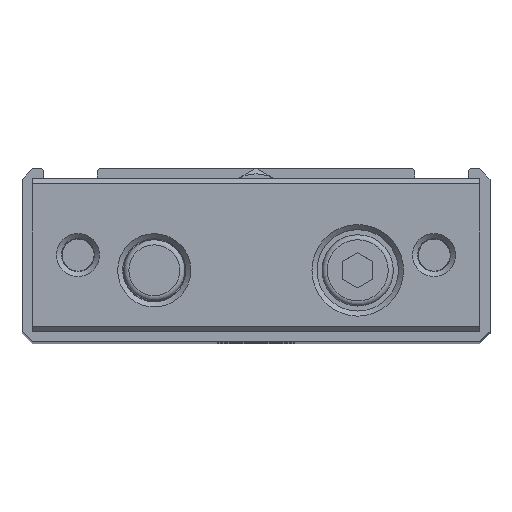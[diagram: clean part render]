
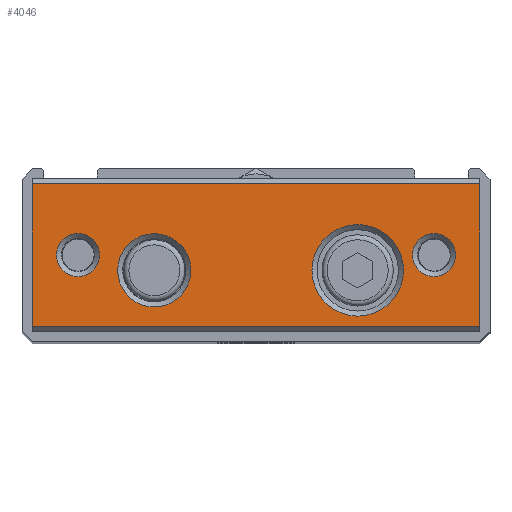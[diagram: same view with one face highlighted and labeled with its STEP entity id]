
A CAD part, top view. The second image highlights one B-rep face of the part: STEP entity #4046.
In plain terms, the highlighted planar face has unit normal (0, 0, 1).
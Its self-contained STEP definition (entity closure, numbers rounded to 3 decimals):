
#3142=CARTESIAN_POINT('',(22.0,7.0,119.));
#3143=VERTEX_POINT('',#3142);
#3151=CARTESIAN_POINT('',(-22.0,7.0,119.));
#3152=VERTEX_POINT('',#3151);
#3159=CARTESIAN_POINT('',(-22.0,7.0,119.));
#3160=DIRECTION('',(1.0,0.0,0.0));
#3161=VECTOR('',#3160,44.0);
#3162=LINE('',#3159,#3161);
#3163=EDGE_CURVE('',#3152,#3143,#3162,.T.);
#3239=CARTESIAN_POINT('',(-22.0,-7.0,119.));
#3240=VERTEX_POINT('',#3239);
#3247=CARTESIAN_POINT('',(-22.0,7.0,119.));
#3248=DIRECTION('',(0.0,-1.0,0.0));
#3249=VECTOR('',#3248,14.0);
#3250=LINE('',#3247,#3249);
#3251=EDGE_CURVE('',#3152,#3240,#3250,.T.);
#3403=CARTESIAN_POINT('',(22.0,-7.0,119.));
#3404=VERTEX_POINT('',#3403);
#3405=CARTESIAN_POINT('',(22.0,-7.0,119.));
#3406=DIRECTION('',(0.0,1.0,0.0));
#3407=VECTOR('',#3406,14.0);
#3408=LINE('',#3405,#3407);
#3409=EDGE_CURVE('',#3404,#3143,#3408,.T.);
#3982=CARTESIAN_POINT('',(14.5,-1.5,119.));
#3983=VERTEX_POINT('',#3982);
#3984=CARTESIAN_POINT('',(10.0,-1.5,119.));
#3985=DIRECTION('',(0.0,0.0,1.0));
#3986=DIRECTION('',(-1.0,0.0,0.0));
#3987=AXIS2_PLACEMENT_3D('',#3984,#3985,#3986);
#3988=CIRCLE('',#3987,4.5);
#3989=EDGE_CURVE('',#3983,#3983,#3988,.T.);
#3994=CARTESIAN_POINT('',(0.0,-7.5,119.));
#3995=DIRECTION('',(0.0,0.0,1.0));
#3996=DIRECTION('',(1.0,0.0,0.0));
#3997=AXIS2_PLACEMENT_3D('',#3994,#3995,#3996);
#3998=PLANE('',#3997);
#3999=ORIENTED_EDGE('',*,*,#3163,.F.);
#4000=ORIENTED_EDGE('',*,*,#3251,.T.);
#4001=CARTESIAN_POINT('',(22.0,-7.0,119.));
#4002=DIRECTION('',(-1.0,0.0,0.0));
#4003=VECTOR('',#4002,44.0);
#4004=LINE('',#4001,#4003);
#4005=EDGE_CURVE('',#3404,#3240,#4004,.T.);
#4006=ORIENTED_EDGE('',*,*,#4005,.F.);
#4007=ORIENTED_EDGE('',*,*,#3409,.T.);
#4008=EDGE_LOOP('',(#3999,#4000,#4006,#4007));
#4009=FACE_OUTER_BOUND('',#4008,.T.);
#4010=CARTESIAN_POINT('',(-6.4,-1.5,119.));
#4011=VERTEX_POINT('',#4010);
#4012=CARTESIAN_POINT('',(-10.0,-1.5,119.));
#4013=DIRECTION('',(0.0,0.0,1.0));
#4014=DIRECTION('',(-1.0,0.0,0.0));
#4015=AXIS2_PLACEMENT_3D('',#4012,#4013,#4014);
#4016=CIRCLE('',#4015,3.6);
#4017=EDGE_CURVE('',#4011,#4011,#4016,.T.);
#4018=ORIENTED_EDGE('',*,*,#4017,.F.);
#4019=EDGE_LOOP('',(#4018));
#4020=FACE_BOUND('',#4019,.T.);
#4021=CARTESIAN_POINT('',(19.621,0.,119.));
#4022=VERTEX_POINT('',#4021);
#4023=CARTESIAN_POINT('',(17.5,0.0,119.));
#4024=DIRECTION('',(0.0,0.0,1.0));
#4025=DIRECTION('',(-1.0,0.0,0.0));
#4026=AXIS2_PLACEMENT_3D('',#4023,#4024,#4025);
#4027=CIRCLE('',#4026,2.121);
#4028=EDGE_CURVE('',#4022,#4022,#4027,.T.);
#4029=ORIENTED_EDGE('',*,*,#4028,.F.);
#4030=EDGE_LOOP('',(#4029));
#4031=FACE_BOUND('',#4030,.T.);
#4032=CARTESIAN_POINT('',(-15.379,0.,119.));
#4033=VERTEX_POINT('',#4032);
#4034=CARTESIAN_POINT('',(-17.5,0.0,119.));
#4035=DIRECTION('',(0.0,0.0,1.0));
#4036=DIRECTION('',(-1.0,0.0,0.0));
#4037=AXIS2_PLACEMENT_3D('',#4034,#4035,#4036);
#4038=CIRCLE('',#4037,2.121);
#4039=EDGE_CURVE('',#4033,#4033,#4038,.T.);
#4040=ORIENTED_EDGE('',*,*,#4039,.F.);
#4041=EDGE_LOOP('',(#4040));
#4042=FACE_BOUND('',#4041,.T.);
#4043=ORIENTED_EDGE('',*,*,#3989,.F.);
#4044=EDGE_LOOP('',(#4043));
#4045=FACE_BOUND('',#4044,.T.);
#4046=ADVANCED_FACE('',(#4009,#4020,#4031,#4042,#4045),#3998,.T.);
